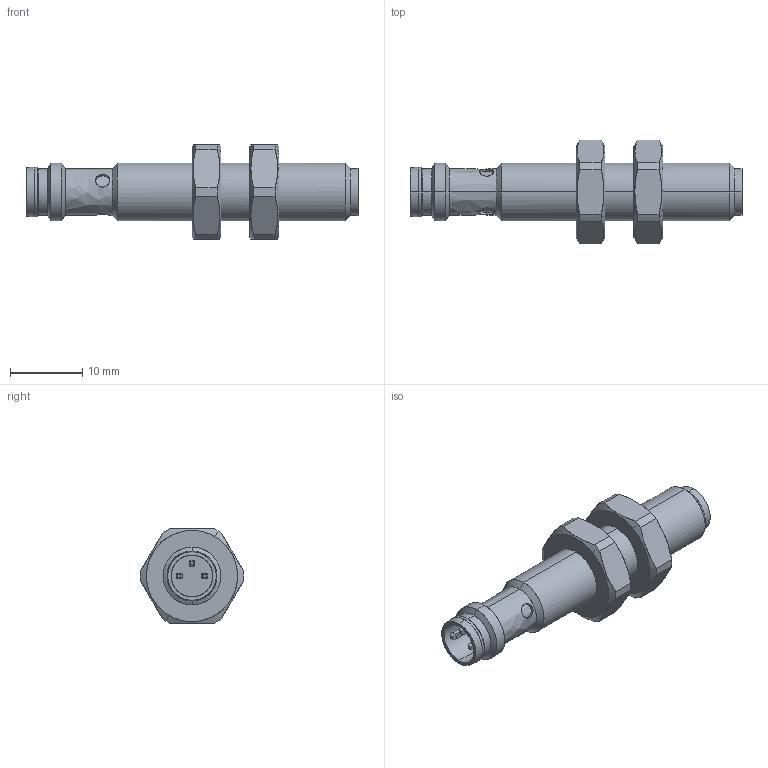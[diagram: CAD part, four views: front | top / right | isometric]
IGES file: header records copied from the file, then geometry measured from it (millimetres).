
Start section: Comment
Global section: file name: IFRD 08xxxA1_S35L.igs; native system:  By Spatial Corp.; preprocessor: XPlus GENERIC/IGES 3.0; author: Author; organization: Title; date: 20060322.080359; units: inch
Bounding box: 45.9 x 14.36 x 13 mm (x, y, z)
Surface area: 2238.6 mm2 (no closed solid volume)
Topology: 0 solids, 0 shells, 141 faces, 702 edges, 702 vertices
Faces by surface type: bspline 141
